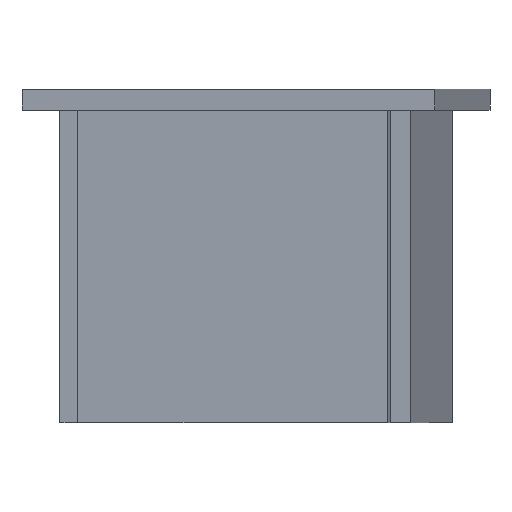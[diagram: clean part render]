
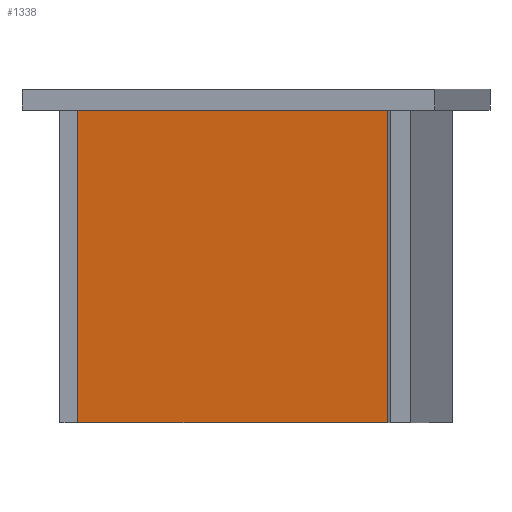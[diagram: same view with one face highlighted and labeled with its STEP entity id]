
A CAD part, front view. The second image highlights one B-rep face of the part: STEP entity #1338.
In plain terms, the highlighted planar face has unit normal (-0.132, -0.991, 0) as drawn and (0, 0, -1) by its records, which use the part's own axes.
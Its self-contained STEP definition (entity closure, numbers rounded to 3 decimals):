
#454 = AXIS2_PLACEMENT_3D ( 'NONE', #5825, #5827, #5828 ) ;
#682 = EDGE_CURVE ( 'NONE', #4511, #4466, #8309, .T. ) ;
#687 = EDGE_CURVE ( 'NONE', #4466, #4504, #8297, .T. ) ;
#695 = EDGE_CURVE ( 'NONE', #4527, #4511, #8325, .T. ) ;
#699 = EDGE_CURVE ( 'NONE', #4504, #4527, #8332, .T. ) ;
#883 = FACE_OUTER_BOUND ( 'NONE', #3642, .T. ) ;
#1338 = ADVANCED_FACE ( 'NONE', ( #883 ), #5836, .F. ) ;
#2158 = CARTESIAN_POINT ( 'NONE',  ( 15., 15., 0. ) ) ;
#2218 = CARTESIAN_POINT ( 'NONE',  ( -15., -15., 0. ) ) ;
#2246 = CARTESIAN_POINT ( 'NONE',  ( -15., 15., 0. ) ) ;
#2260 = CARTESIAN_POINT ( 'NONE',  ( 15., -15., 0. ) ) ;
#3642 = EDGE_LOOP ( 'NONE', ( #9279, #9080, #9041, #9035 ) ) ;
#4466 = VERTEX_POINT ( 'NONE', #2158 ) ;
#4504 = VERTEX_POINT ( 'NONE', #2246 ) ;
#4511 = VERTEX_POINT ( 'NONE', #2260 ) ;
#4527 = VERTEX_POINT ( 'NONE', #2218 ) ;
#5825 = CARTESIAN_POINT ( 'NONE',  ( 0., 0., 0. ) ) ;
#5827 = DIRECTION ( 'NONE',  ( 0., 0., 1. ) ) ;
#5828 = DIRECTION ( 'NONE',  ( 1., 0., 0. ) ) ;
#5836 = PLANE ( 'NONE',  #454 ) ;
#6935 = DIRECTION ( 'NONE',  ( 0., 1., 0. ) ) ;
#6968 = CARTESIAN_POINT ( 'NONE',  ( 15., 15., 0. ) ) ;
#6994 = CARTESIAN_POINT ( 'NONE',  ( -15., 15., 0. ) ) ;
#6995 = DIRECTION ( 'NONE',  ( -1., 0., 0. ) ) ;
#7029 = CARTESIAN_POINT ( 'NONE',  ( -15., 15., 0. ) ) ;
#7031 = DIRECTION ( 'NONE',  ( 0., -1., 0. ) ) ;
#7040 = CARTESIAN_POINT ( 'NONE',  ( -15., -15., 0. ) ) ;
#7050 = DIRECTION ( 'NONE',  ( 1., 0., 0. ) ) ;
#8296 = VECTOR ( 'NONE', #6935, 1000. ) ;
#8297 = LINE ( 'NONE', #6994, #8314 ) ;
#8309 = LINE ( 'NONE', #6968, #8296 ) ;
#8314 = VECTOR ( 'NONE', #6995, 1000. ) ;
#8325 = LINE ( 'NONE', #7040, #8339 ) ;
#8326 = VECTOR ( 'NONE', #7031, 1000. ) ;
#8332 = LINE ( 'NONE', #7029, #8326 ) ;
#8339 = VECTOR ( 'NONE', #7050, 1000. ) ;
#9035 = ORIENTED_EDGE ( 'NONE', *, *, #687, .F. ) ;
#9041 = ORIENTED_EDGE ( 'NONE', *, *, #699, .F. ) ;
#9080 = ORIENTED_EDGE ( 'NONE', *, *, #695, .F. ) ;
#9279 = ORIENTED_EDGE ( 'NONE', *, *, #682, .F. ) ;
